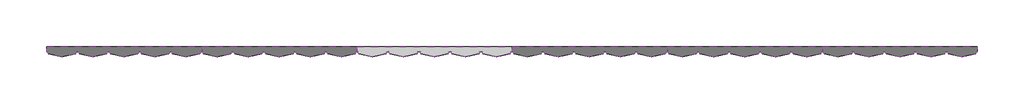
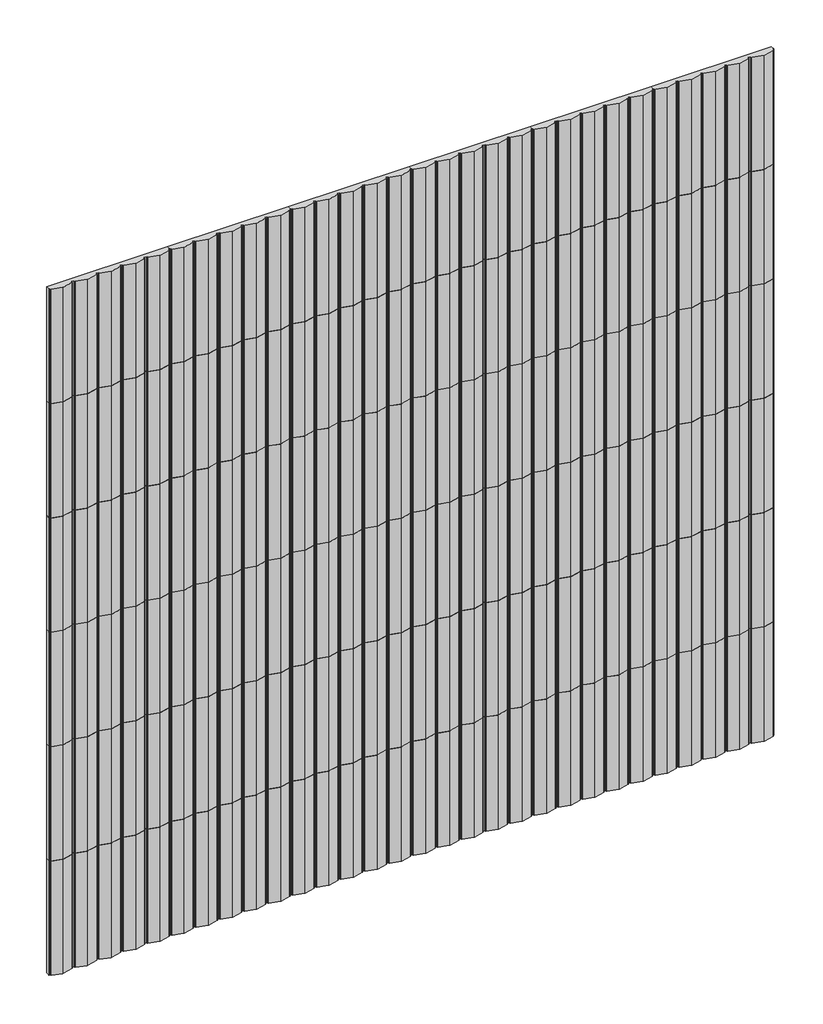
# One storey: 36 proxies.
"""IFC4 building model written with IfcOpenShell, lengths in millimetres."""

from ifc_helpers import new_model, si_unit, origin, place, context, project, spatial, transform, mapped, element, save
from components import specialty_equipment_52cbe585

model = new_model("IFC4")

# Units and contexts
model_context = context("Model", 3, world=origin())
ifc_project = project(units=[si_unit("LENGTHUNIT", "METRE", prefix="MILLI")], contexts=[model_context])

# Site, building, storey
site = spatial("IfcSite", under=ifc_project)
building = spatial("IfcBuilding", under=site)
storey = spatial("IfcBuildingStorey", under=building, Name="Nível 1", Elevation=0.0)

# Proxies
placement = place(None, origin())
specialty_equipment_shape = specialty_equipment_52cbe585(model_context)
element("IfcBuildingElementProxy", 1, Name="Spinneybeck_Porto 2 : Porto 2", ObjectType="Spinneybeck_Porto 2 : Porto 2", at=placement, inside=storey, context=model_context, shape_type="MappedRepresentation", body=[
    mapped(specialty_equipment_shape, transform((-11719.9950363, 552.5357437, 203.2), x_axis=(1.0, 0.0, 0.0), y_axis=(0.0, 0.0, 1.0), z_axis=(0.0, -1.0, 0.0))),
])
element("IfcBuildingElementProxy", 2, Name="Spinneybeck_Porto 2 : Porto 2", ObjectType="Spinneybeck_Porto 2 : Porto 2", at=placement, inside=storey, context=model_context, shape_type="MappedRepresentation", body=[
    mapped(specialty_equipment_shape, transform((-11719.9950363, 552.5357437, 609.6), x_axis=(1.0, 0.0, 0.0), y_axis=(0.0, 0.0, 1.0), z_axis=(0.0, -1.0, 0.0))),
])
element("IfcBuildingElementProxy", 3, Name="Spinneybeck_Porto 2 : Porto 2", ObjectType="Spinneybeck_Porto 2 : Porto 2", at=placement, inside=storey, context=model_context, shape_type="MappedRepresentation", body=[
    mapped(specialty_equipment_shape, transform((-11719.9950363, 552.5357437, 1016.0), x_axis=(1.0, 0.0, 0.0), y_axis=(0.0, 0.0, 1.0), z_axis=(0.0, -1.0, 0.0))),
])
element("IfcBuildingElementProxy", 4, Name="Spinneybeck_Porto 2 : Porto 2", ObjectType="Spinneybeck_Porto 2 : Porto 2", at=placement, inside=storey, context=model_context, shape_type="MappedRepresentation", body=[
    mapped(specialty_equipment_shape, transform((-11719.9950363, 552.5357437, 1422.4), x_axis=(1.0, 0.0, 0.0), y_axis=(0.0, 0.0, 1.0), z_axis=(0.0, -1.0, 0.0))),
])
element("IfcBuildingElementProxy", 5, Name="Spinneybeck_Porto 2 : Porto 2", ObjectType="Spinneybeck_Porto 2 : Porto 2", at=placement, inside=storey, context=model_context, shape_type="MappedRepresentation", body=[
    mapped(specialty_equipment_shape, transform((-11719.9950363, 552.5357437, 1828.8), x_axis=(1.0, 0.0, 0.0), y_axis=(0.0, 0.0, 1.0), z_axis=(0.0, -1.0, 0.0))),
])
element("IfcBuildingElementProxy", 6, Name="Spinneybeck_Porto 2 : Porto 2", ObjectType="Spinneybeck_Porto 2 : Porto 2", at=placement, inside=storey, context=model_context, shape_type="MappedRepresentation", body=[
    mapped(specialty_equipment_shape, transform((-11719.9950363, 552.5357437, 2235.2), x_axis=(1.0, 0.0, 0.0), y_axis=(0.0, 0.0, 1.0), z_axis=(0.0, -1.0, 0.0))),
])
element("IfcBuildingElementProxy", 7, Name="Spinneybeck_Porto 2 : Porto 2", ObjectType="Spinneybeck_Porto 2 : Porto 2", at=placement, inside=storey, context=model_context, shape_type="MappedRepresentation", body=[
    mapped(specialty_equipment_shape, transform((-11313.5950363, 552.5357437, 203.2), x_axis=(1.0, 0.0, 0.0), y_axis=(0.0, 0.0, 1.0), z_axis=(0.0, -1.0, 0.0))),
])
element("IfcBuildingElementProxy", 8, Name="Spinneybeck_Porto 2 : Porto 2", ObjectType="Spinneybeck_Porto 2 : Porto 2", at=placement, inside=storey, context=model_context, shape_type="MappedRepresentation", body=[
    mapped(specialty_equipment_shape, transform((-11313.5950363, 552.5357437, 609.6), x_axis=(1.0, 0.0, 0.0), y_axis=(0.0, 0.0, 1.0), z_axis=(0.0, -1.0, 0.0))),
])
element("IfcBuildingElementProxy", 9, Name="Spinneybeck_Porto 2 : Porto 2", ObjectType="Spinneybeck_Porto 2 : Porto 2", at=placement, inside=storey, context=model_context, shape_type="MappedRepresentation", body=[
    mapped(specialty_equipment_shape, transform((-11313.5950363, 552.5357437, 1016.0), x_axis=(1.0, 0.0, 0.0), y_axis=(0.0, 0.0, 1.0), z_axis=(0.0, -1.0, 0.0))),
])
element("IfcBuildingElementProxy", 10, Name="Spinneybeck_Porto 2 : Porto 2", ObjectType="Spinneybeck_Porto 2 : Porto 2", at=placement, inside=storey, context=model_context, shape_type="MappedRepresentation", body=[
    mapped(specialty_equipment_shape, transform((-11313.5950363, 552.5357437, 1422.4), x_axis=(1.0, 0.0, 0.0), y_axis=(0.0, 0.0, 1.0), z_axis=(0.0, -1.0, 0.0))),
])
element("IfcBuildingElementProxy", 11, Name="Spinneybeck_Porto 2 : Porto 2", ObjectType="Spinneybeck_Porto 2 : Porto 2", at=placement, inside=storey, context=model_context, shape_type="MappedRepresentation", body=[
    mapped(specialty_equipment_shape, transform((-11313.5950363, 552.5357437, 1828.8), x_axis=(1.0, 0.0, 0.0), y_axis=(0.0, 0.0, 1.0), z_axis=(0.0, -1.0, 0.0))),
])
element("IfcBuildingElementProxy", 12, Name="Spinneybeck_Porto 2 : Porto 2", ObjectType="Spinneybeck_Porto 2 : Porto 2", at=placement, inside=storey, context=model_context, shape_type="MappedRepresentation", body=[
    mapped(specialty_equipment_shape, transform((-11313.5950363, 552.5357437, 2235.2), x_axis=(1.0, 0.0, 0.0), y_axis=(0.0, 0.0, 1.0), z_axis=(0.0, -1.0, 0.0))),
])
element("IfcBuildingElementProxy", 13, Name="Spinneybeck_Porto 2 : Porto 2", ObjectType="Spinneybeck_Porto 2 : Porto 2", at=placement, inside=storey, context=model_context, shape_type="MappedRepresentation", body=[
    mapped(specialty_equipment_shape, transform((-10907.1950363, 552.5357437, 203.2), x_axis=(1.0, 0.0, 0.0), y_axis=(0.0, 0.0, 1.0), z_axis=(0.0, -1.0, 0.0))),
])
element("IfcBuildingElementProxy", 14, Name="Spinneybeck_Porto 2 : Porto 2", ObjectType="Spinneybeck_Porto 2 : Porto 2", at=placement, inside=storey, context=model_context, shape_type="MappedRepresentation", body=[
    mapped(specialty_equipment_shape, transform((-10907.1950363, 552.5357437, 609.6), x_axis=(1.0, 0.0, 0.0), y_axis=(0.0, 0.0, 1.0), z_axis=(0.0, -1.0, 0.0))),
])
element("IfcBuildingElementProxy", 15, Name="Spinneybeck_Porto 2 : Porto 2", ObjectType="Spinneybeck_Porto 2 : Porto 2", at=placement, inside=storey, context=model_context, shape_type="MappedRepresentation", body=[
    mapped(specialty_equipment_shape, transform((-10907.1950363, 552.5357437, 1016.0), x_axis=(1.0, 0.0, 0.0), y_axis=(0.0, 0.0, 1.0), z_axis=(0.0, -1.0, 0.0))),
])
element("IfcBuildingElementProxy", 16, Name="Spinneybeck_Porto 2 : Porto 2", ObjectType="Spinneybeck_Porto 2 : Porto 2", at=placement, inside=storey, context=model_context, shape_type="MappedRepresentation", body=[
    mapped(specialty_equipment_shape, transform((-10907.1950363, 552.5357437, 1422.4), x_axis=(1.0, 0.0, 0.0), y_axis=(0.0, 0.0, 1.0), z_axis=(0.0, -1.0, 0.0))),
])
element("IfcBuildingElementProxy", 17, Name="Spinneybeck_Porto 2 : Porto 2", ObjectType="Spinneybeck_Porto 2 : Porto 2", at=placement, inside=storey, context=model_context, shape_type="MappedRepresentation", body=[
    mapped(specialty_equipment_shape, transform((-10907.1950363, 552.5357437, 1828.8), x_axis=(1.0, 0.0, 0.0), y_axis=(0.0, 0.0, 1.0), z_axis=(0.0, -1.0, 0.0))),
])
element("IfcBuildingElementProxy", 18, Name="Spinneybeck_Porto 2 : Porto 2", ObjectType="Spinneybeck_Porto 2 : Porto 2", at=placement, inside=storey, context=model_context, shape_type="MappedRepresentation", body=[
    mapped(specialty_equipment_shape, transform((-10907.1950363, 552.5357437, 2235.2), x_axis=(1.0, 0.0, 0.0), y_axis=(0.0, 0.0, 1.0), z_axis=(0.0, -1.0, 0.0))),
])
element("IfcBuildingElementProxy", 19, Name="Spinneybeck_Porto 2 : Porto 2", ObjectType="Spinneybeck_Porto 2 : Porto 2", at=placement, inside=storey, context=model_context, shape_type="MappedRepresentation", body=[
    mapped(specialty_equipment_shape, transform((-10500.7950363, 552.5357437, 203.2), x_axis=(1.0, 0.0, 0.0), y_axis=(0.0, 0.0, 1.0), z_axis=(0.0, -1.0, 0.0))),
])
element("IfcBuildingElementProxy", 20, Name="Spinneybeck_Porto 2 : Porto 2", ObjectType="Spinneybeck_Porto 2 : Porto 2", at=placement, inside=storey, context=model_context, shape_type="MappedRepresentation", body=[
    mapped(specialty_equipment_shape, transform((-10500.7950363, 552.5357437, 609.6), x_axis=(1.0, 0.0, 0.0), y_axis=(0.0, 0.0, 1.0), z_axis=(0.0, -1.0, 0.0))),
])
element("IfcBuildingElementProxy", 21, Name="Spinneybeck_Porto 2 : Porto 2", ObjectType="Spinneybeck_Porto 2 : Porto 2", at=placement, inside=storey, context=model_context, shape_type="MappedRepresentation", body=[
    mapped(specialty_equipment_shape, transform((-10500.7950363, 552.5357437, 1016.0), x_axis=(1.0, 0.0, 0.0), y_axis=(0.0, 0.0, 1.0), z_axis=(0.0, -1.0, 0.0))),
])
element("IfcBuildingElementProxy", 22, Name="Spinneybeck_Porto 2 : Porto 2", ObjectType="Spinneybeck_Porto 2 : Porto 2", at=placement, inside=storey, context=model_context, shape_type="MappedRepresentation", body=[
    mapped(specialty_equipment_shape, transform((-10500.7950363, 552.5357437, 1422.4), x_axis=(1.0, 0.0, 0.0), y_axis=(0.0, 0.0, 1.0), z_axis=(0.0, -1.0, 0.0))),
])
element("IfcBuildingElementProxy", 23, Name="Spinneybeck_Porto 2 : Porto 2", ObjectType="Spinneybeck_Porto 2 : Porto 2", at=placement, inside=storey, context=model_context, shape_type="MappedRepresentation", body=[
    mapped(specialty_equipment_shape, transform((-10500.7950363, 552.5357437, 1828.8), x_axis=(1.0, 0.0, 0.0), y_axis=(0.0, 0.0, 1.0), z_axis=(0.0, -1.0, 0.0))),
])
element("IfcBuildingElementProxy", 24, Name="Spinneybeck_Porto 2 : Porto 2", ObjectType="Spinneybeck_Porto 2 : Porto 2", at=placement, inside=storey, context=model_context, shape_type="MappedRepresentation", body=[
    mapped(specialty_equipment_shape, transform((-10500.7950363, 552.5357437, 2235.2), x_axis=(1.0, 0.0, 0.0), y_axis=(0.0, 0.0, 1.0), z_axis=(0.0, -1.0, 0.0))),
])
element("IfcBuildingElementProxy", 25, Name="Spinneybeck_Porto 2 : Porto 2", ObjectType="Spinneybeck_Porto 2 : Porto 2", at=placement, inside=storey, context=model_context, shape_type="MappedRepresentation", body=[
    mapped(specialty_equipment_shape, transform((-10094.3950363, 552.5357437, 203.2), x_axis=(1.0, 0.0, 0.0), y_axis=(0.0, 0.0, 1.0), z_axis=(0.0, -1.0, 0.0))),
])
element("IfcBuildingElementProxy", 26, Name="Spinneybeck_Porto 2 : Porto 2", ObjectType="Spinneybeck_Porto 2 : Porto 2", at=placement, inside=storey, context=model_context, shape_type="MappedRepresentation", body=[
    mapped(specialty_equipment_shape, transform((-10094.3950363, 552.5357437, 609.6), x_axis=(1.0, 0.0, 0.0), y_axis=(0.0, 0.0, 1.0), z_axis=(0.0, -1.0, 0.0))),
])
element("IfcBuildingElementProxy", 27, Name="Spinneybeck_Porto 2 : Porto 2", ObjectType="Spinneybeck_Porto 2 : Porto 2", at=placement, inside=storey, context=model_context, shape_type="MappedRepresentation", body=[
    mapped(specialty_equipment_shape, transform((-10094.3950363, 552.5357437, 1016.0), x_axis=(1.0, 0.0, 0.0), y_axis=(0.0, 0.0, 1.0), z_axis=(0.0, -1.0, 0.0))),
])
element("IfcBuildingElementProxy", 28, Name="Spinneybeck_Porto 2 : Porto 2", ObjectType="Spinneybeck_Porto 2 : Porto 2", at=placement, inside=storey, context=model_context, shape_type="MappedRepresentation", body=[
    mapped(specialty_equipment_shape, transform((-10094.3950363, 552.5357437, 1422.4), x_axis=(1.0, 0.0, 0.0), y_axis=(0.0, 0.0, 1.0), z_axis=(0.0, -1.0, 0.0))),
])
element("IfcBuildingElementProxy", 29, Name="Spinneybeck_Porto 2 : Porto 2", ObjectType="Spinneybeck_Porto 2 : Porto 2", at=placement, inside=storey, context=model_context, shape_type="MappedRepresentation", body=[
    mapped(specialty_equipment_shape, transform((-10094.3950363, 552.5357437, 1828.8), x_axis=(1.0, 0.0, 0.0), y_axis=(0.0, 0.0, 1.0), z_axis=(0.0, -1.0, 0.0))),
])
element("IfcBuildingElementProxy", 30, Name="Spinneybeck_Porto 2 : Porto 2", ObjectType="Spinneybeck_Porto 2 : Porto 2", at=placement, inside=storey, context=model_context, shape_type="MappedRepresentation", body=[
    mapped(specialty_equipment_shape, transform((-10094.3950363, 552.5357437, 2235.2), x_axis=(1.0, 0.0, 0.0), y_axis=(0.0, 0.0, 1.0), z_axis=(0.0, -1.0, 0.0))),
])
element("IfcBuildingElementProxy", 31, Name="Spinneybeck_Porto 2 : Porto 2", ObjectType="Spinneybeck_Porto 2 : Porto 2", at=placement, inside=storey, context=model_context, shape_type="MappedRepresentation", body=[
    mapped(specialty_equipment_shape, transform((-9687.9950363, 552.5357437, 203.2), x_axis=(1.0, 0.0, 0.0), y_axis=(0.0, 0.0, 1.0), z_axis=(0.0, -1.0, 0.0))),
])
element("IfcBuildingElementProxy", 32, Name="Spinneybeck_Porto 2 : Porto 2", ObjectType="Spinneybeck_Porto 2 : Porto 2", at=placement, inside=storey, context=model_context, shape_type="MappedRepresentation", body=[
    mapped(specialty_equipment_shape, transform((-9687.9950363, 552.5357437, 609.6), x_axis=(1.0, 0.0, 0.0), y_axis=(0.0, 0.0, 1.0), z_axis=(0.0, -1.0, 0.0))),
])
element("IfcBuildingElementProxy", 33, Name="Spinneybeck_Porto 2 : Porto 2", ObjectType="Spinneybeck_Porto 2 : Porto 2", at=placement, inside=storey, context=model_context, shape_type="MappedRepresentation", body=[
    mapped(specialty_equipment_shape, transform((-9687.9950363, 552.5357437, 1016.0), x_axis=(1.0, 0.0, 0.0), y_axis=(0.0, 0.0, 1.0), z_axis=(0.0, -1.0, 0.0))),
])
element("IfcBuildingElementProxy", 34, Name="Spinneybeck_Porto 2 : Porto 2", ObjectType="Spinneybeck_Porto 2 : Porto 2", at=placement, inside=storey, context=model_context, shape_type="MappedRepresentation", body=[
    mapped(specialty_equipment_shape, transform((-9687.9950363, 552.5357437, 1422.4), x_axis=(1.0, 0.0, 0.0), y_axis=(0.0, 0.0, 1.0), z_axis=(0.0, -1.0, 0.0))),
])
element("IfcBuildingElementProxy", 35, Name="Spinneybeck_Porto 2 : Porto 2", ObjectType="Spinneybeck_Porto 2 : Porto 2", at=placement, inside=storey, context=model_context, shape_type="MappedRepresentation", body=[
    mapped(specialty_equipment_shape, transform((-9687.9950363, 552.5357437, 1828.8), x_axis=(1.0, 0.0, 0.0), y_axis=(0.0, 0.0, 1.0), z_axis=(0.0, -1.0, 0.0))),
])
element("IfcBuildingElementProxy", 36, Name="Spinneybeck_Porto 2 : Porto 2", ObjectType="Spinneybeck_Porto 2 : Porto 2", at=placement, inside=storey, context=model_context, shape_type="MappedRepresentation", body=[
    mapped(specialty_equipment_shape, transform((-9687.9950363, 552.5357437, 2235.2), x_axis=(1.0, 0.0, 0.0), y_axis=(0.0, 0.0, 1.0), z_axis=(0.0, -1.0, 0.0))),
])

save(model, "model.ifc")
